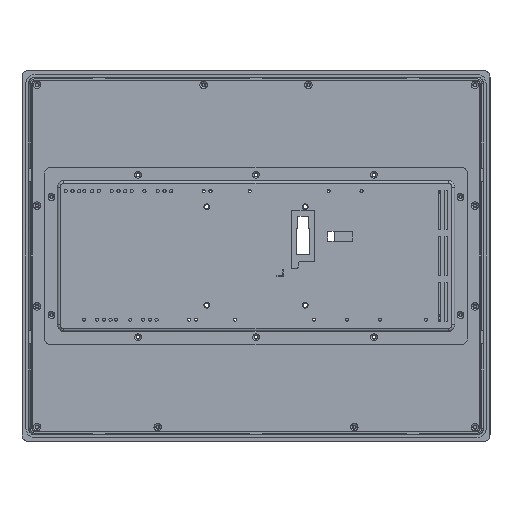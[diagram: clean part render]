
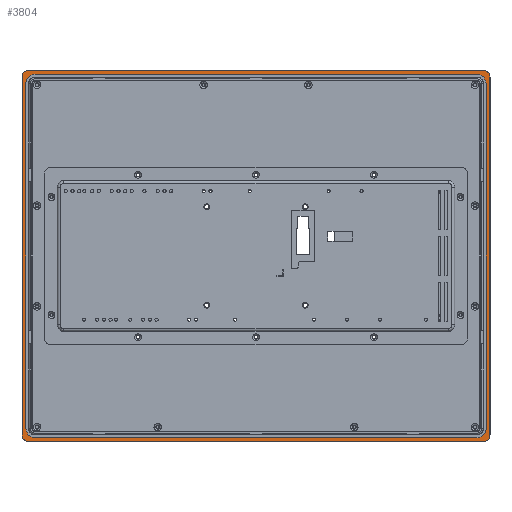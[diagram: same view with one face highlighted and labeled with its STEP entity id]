
A CAD part, front view. The second image highlights one B-rep face of the part: STEP entity #3804.
In plain terms, the highlighted planar face has unit normal (0, -1, 0).
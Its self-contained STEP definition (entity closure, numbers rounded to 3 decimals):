
#3804=ADVANCED_FACE('',(#5311,#4294),#32550,.T.);
#4294=FACE_BOUND('',#6746,.T.);
#5311=FACE_OUTER_BOUND('',#6745,.T.);
#6745=EDGE_LOOP('',(#12255,#12256,#12257,#12258,#12259,#12260,#12261,#12262));
#6746=EDGE_LOOP('',(#12263,#12264,#12265,#12266,#12267,#12268,#12269,#12270));
#12255=ORIENTED_EDGE('',*,*,#18496,.F.);
#12256=ORIENTED_EDGE('',*,*,#18495,.T.);
#12257=ORIENTED_EDGE('',*,*,#18494,.F.);
#12258=ORIENTED_EDGE('',*,*,#18493,.T.);
#12259=ORIENTED_EDGE('',*,*,#18492,.F.);
#12260=ORIENTED_EDGE('',*,*,#18491,.T.);
#12261=ORIENTED_EDGE('',*,*,#18490,.F.);
#12262=ORIENTED_EDGE('',*,*,#18489,.T.);
#12263=ORIENTED_EDGE('',*,*,#18504,.F.);
#12264=ORIENTED_EDGE('',*,*,#18503,.F.);
#12265=ORIENTED_EDGE('',*,*,#18502,.F.);
#12266=ORIENTED_EDGE('',*,*,#18501,.F.);
#12267=ORIENTED_EDGE('',*,*,#18500,.F.);
#12268=ORIENTED_EDGE('',*,*,#18499,.F.);
#12269=ORIENTED_EDGE('',*,*,#18498,.F.);
#12270=ORIENTED_EDGE('',*,*,#18497,.F.);
#18489=EDGE_CURVE('',#30958,#30957,#25169,.T.);
#18490=EDGE_CURVE('',#30958,#30959,#23472,.T.);
#18491=EDGE_CURVE('',#30960,#30959,#25170,.T.);
#18492=EDGE_CURVE('',#30960,#30961,#23473,.T.);
#18493=EDGE_CURVE('',#30962,#30961,#25171,.T.);
#18494=EDGE_CURVE('',#30962,#30963,#23474,.T.);
#18495=EDGE_CURVE('',#30964,#30963,#25172,.T.);
#18496=EDGE_CURVE('',#30964,#30957,#23475,.T.);
#18497=EDGE_CURVE('',#30965,#30966,#23476,.T.);
#18498=EDGE_CURVE('',#30966,#30967,#25173,.T.);
#18499=EDGE_CURVE('',#30967,#30968,#23477,.T.);
#18500=EDGE_CURVE('',#30968,#30969,#25174,.T.);
#18501=EDGE_CURVE('',#30969,#30970,#23478,.T.);
#18502=EDGE_CURVE('',#30970,#30971,#25175,.T.);
#18503=EDGE_CURVE('',#30971,#30972,#23479,.T.);
#18504=EDGE_CURVE('',#30972,#30965,#25176,.T.);
#23472=B_SPLINE_CURVE_WITH_KNOTS('',1,(#55922,#55923),.UNSPECIFIED.,.F.,
 .F.,(2,2),(0.,1.),.UNSPECIFIED.);
#23473=B_SPLINE_CURVE_WITH_KNOTS('',1,(#55929,#55930),.UNSPECIFIED.,.F.,
 .F.,(2,2),(0.,1.),.UNSPECIFIED.);
#23474=B_SPLINE_CURVE_WITH_KNOTS('',1,(#55936,#55937),.UNSPECIFIED.,.F.,
 .F.,(2,2),(0.,1.),.UNSPECIFIED.);
#23475=B_SPLINE_CURVE_WITH_KNOTS('',1,(#55943,#55944),.UNSPECIFIED.,.F.,
 .F.,(2,2),(0.,1.),.UNSPECIFIED.);
#23476=B_SPLINE_CURVE_WITH_KNOTS('',1,(#55945,#55946),.UNSPECIFIED.,.F.,
 .F.,(2,2),(0.,1.),.UNSPECIFIED.);
#23477=B_SPLINE_CURVE_WITH_KNOTS('',1,(#55950,#55951),.UNSPECIFIED.,.F.,
 .F.,(2,2),(0.,1.),.UNSPECIFIED.);
#23478=B_SPLINE_CURVE_WITH_KNOTS('',1,(#55955,#55956),.UNSPECIFIED.,.F.,
 .F.,(2,2),(0.,1.),.UNSPECIFIED.);
#23479=B_SPLINE_CURVE_WITH_KNOTS('',1,(#55960,#55961),.UNSPECIFIED.,.F.,
 .F.,(2,2),(0.,1.),.UNSPECIFIED.);
#25169=(
BOUNDED_CURVE()
B_SPLINE_CURVE(2,(#55917,#55918,#55919,#55920,#55921),.UNSPECIFIED.,.F.,
 .F.)
B_SPLINE_CURVE_WITH_KNOTS((3,2,3),(11.783,15.71,19.637),
 .UNSPECIFIED.)
CURVE()
GEOMETRIC_REPRESENTATION_ITEM()
RATIONAL_B_SPLINE_CURVE((1.,0.924,1.,0.924,1.))
REPRESENTATION_ITEM('')
);
#25170=(
BOUNDED_CURVE()
B_SPLINE_CURVE(2,(#55924,#55925,#55926,#55927,#55928),.UNSPECIFIED.,.F.,
 .F.)
B_SPLINE_CURVE_WITH_KNOTS((3,2,3),(11.783,15.71,19.637),
 .UNSPECIFIED.)
CURVE()
GEOMETRIC_REPRESENTATION_ITEM()
RATIONAL_B_SPLINE_CURVE((1.,0.924,1.,0.924,1.))
REPRESENTATION_ITEM('')
);
#25171=(
BOUNDED_CURVE()
B_SPLINE_CURVE(2,(#55931,#55932,#55933,#55934,#55935),.UNSPECIFIED.,.F.,
 .F.)
B_SPLINE_CURVE_WITH_KNOTS((3,2,3),(11.783,15.71,19.637),
 .UNSPECIFIED.)
CURVE()
GEOMETRIC_REPRESENTATION_ITEM()
RATIONAL_B_SPLINE_CURVE((1.,0.924,1.,0.924,1.))
REPRESENTATION_ITEM('')
);
#25172=(
BOUNDED_CURVE()
B_SPLINE_CURVE(2,(#55938,#55939,#55940,#55941,#55942),.UNSPECIFIED.,.F.,
 .F.)
B_SPLINE_CURVE_WITH_KNOTS((3,2,3),(11.783,15.71,19.637),
 .UNSPECIFIED.)
CURVE()
GEOMETRIC_REPRESENTATION_ITEM()
RATIONAL_B_SPLINE_CURVE((1.,0.924,1.,0.924,1.))
REPRESENTATION_ITEM('')
);
#25173=(
BOUNDED_CURVE()
B_SPLINE_CURVE(2,(#55947,#55948,#55949),.UNSPECIFIED.,.F.,.F.)
B_SPLINE_CURVE_WITH_KNOTS((3,3),(0.,1.571),.UNSPECIFIED.)
CURVE()
GEOMETRIC_REPRESENTATION_ITEM()
RATIONAL_B_SPLINE_CURVE((1.,0.707,1.))
REPRESENTATION_ITEM('')
);
#25174=(
BOUNDED_CURVE()
B_SPLINE_CURVE(2,(#55952,#55953,#55954),.UNSPECIFIED.,.F.,.F.)
B_SPLINE_CURVE_WITH_KNOTS((3,3),(0.,1.571),.UNSPECIFIED.)
CURVE()
GEOMETRIC_REPRESENTATION_ITEM()
RATIONAL_B_SPLINE_CURVE((1.,0.707,1.))
REPRESENTATION_ITEM('')
);
#25175=(
BOUNDED_CURVE()
B_SPLINE_CURVE(2,(#55957,#55958,#55959),.UNSPECIFIED.,.F.,.F.)
B_SPLINE_CURVE_WITH_KNOTS((3,3),(0.,1.571),.UNSPECIFIED.)
CURVE()
GEOMETRIC_REPRESENTATION_ITEM()
RATIONAL_B_SPLINE_CURVE((1.,0.707,1.))
REPRESENTATION_ITEM('')
);
#25176=(
BOUNDED_CURVE()
B_SPLINE_CURVE(2,(#55962,#55963,#55964),.UNSPECIFIED.,.F.,.F.)
B_SPLINE_CURVE_WITH_KNOTS((3,3),(0.,1.571),.UNSPECIFIED.)
CURVE()
GEOMETRIC_REPRESENTATION_ITEM()
RATIONAL_B_SPLINE_CURVE((1.,0.707,1.))
REPRESENTATION_ITEM('')
);
#30957=VERTEX_POINT('',#55901);
#30958=VERTEX_POINT('',#55902);
#30959=VERTEX_POINT('',#55903);
#30960=VERTEX_POINT('',#55904);
#30961=VERTEX_POINT('',#55905);
#30962=VERTEX_POINT('',#55906);
#30963=VERTEX_POINT('',#55907);
#30964=VERTEX_POINT('',#55908);
#30965=VERTEX_POINT('',#55909);
#30966=VERTEX_POINT('',#55910);
#30967=VERTEX_POINT('',#55911);
#30968=VERTEX_POINT('',#55912);
#30969=VERTEX_POINT('',#55913);
#30970=VERTEX_POINT('',#55914);
#30971=VERTEX_POINT('',#55915);
#30972=VERTEX_POINT('',#55916);
#32550=PLANE('',#33540);
#33540=AXIS2_PLACEMENT_3D('',#55900,#34554,$);
#34554=DIRECTION('',(0.,-1.,0.));
#55900=CARTESIAN_POINT('',(-185.64,0.,147.16));
#55901=CARTESIAN_POINT('',(-178.5,0.,136.501));
#55902=CARTESIAN_POINT('',(-173.501,0.,141.5));
#55903=CARTESIAN_POINT('',(173.501,0.,141.5));
#55904=CARTESIAN_POINT('',(178.5,0.,136.501));
#55905=CARTESIAN_POINT('',(178.5,0.,-136.501));
#55906=CARTESIAN_POINT('',(173.501,0.,-141.5));
#55907=CARTESIAN_POINT('',(-173.501,0.,-141.5));
#55908=CARTESIAN_POINT('',(-178.5,0.,-136.501));
#55909=CARTESIAN_POINT('',(-175.5,0.,131.5));
#55910=CARTESIAN_POINT('',(-175.5,0.,-131.5));
#55911=CARTESIAN_POINT('',(-168.5,0.,-138.5));
#55912=CARTESIAN_POINT('',(168.5,0.,-138.5));
#55913=CARTESIAN_POINT('',(175.5,0.,-131.5));
#55914=CARTESIAN_POINT('',(175.5,0.,131.5));
#55915=CARTESIAN_POINT('',(168.5,0.,138.5));
#55916=CARTESIAN_POINT('',(-168.5,0.,138.5));
#55917=CARTESIAN_POINT('',(-173.501,0.,141.5));
#55918=CARTESIAN_POINT('',(-175.572,0.,141.5));
#55919=CARTESIAN_POINT('',(-177.036,0.,140.036));
#55920=CARTESIAN_POINT('',(-178.5,0.,138.572));
#55921=CARTESIAN_POINT('',(-178.5,0.,136.501));
#55922=CARTESIAN_POINT('',(-173.501,0.,141.5));
#55923=CARTESIAN_POINT('',(173.501,0.,141.5));
#55924=CARTESIAN_POINT('',(178.5,0.,136.501));
#55925=CARTESIAN_POINT('',(178.5,0.,138.572));
#55926=CARTESIAN_POINT('',(177.036,0.,140.036));
#55927=CARTESIAN_POINT('',(175.572,0.,141.5));
#55928=CARTESIAN_POINT('',(173.501,0.,141.5));
#55929=CARTESIAN_POINT('',(178.5,0.,136.501));
#55930=CARTESIAN_POINT('',(178.5,0.,-136.501));
#55931=CARTESIAN_POINT('',(173.501,0.,-141.5));
#55932=CARTESIAN_POINT('',(175.572,0.,-141.5));
#55933=CARTESIAN_POINT('',(177.036,0.,-140.036));
#55934=CARTESIAN_POINT('',(178.5,0.,-138.572));
#55935=CARTESIAN_POINT('',(178.5,0.,-136.501));
#55936=CARTESIAN_POINT('',(173.501,0.,-141.5));
#55937=CARTESIAN_POINT('',(-173.501,0.,-141.5));
#55938=CARTESIAN_POINT('',(-178.5,0.,-136.501));
#55939=CARTESIAN_POINT('',(-178.5,0.,-138.572));
#55940=CARTESIAN_POINT('',(-177.036,0.,-140.036));
#55941=CARTESIAN_POINT('',(-175.572,0.,-141.5));
#55942=CARTESIAN_POINT('',(-173.501,0.,-141.5));
#55943=CARTESIAN_POINT('',(-178.5,0.,-136.501));
#55944=CARTESIAN_POINT('',(-178.5,0.,136.501));
#55945=CARTESIAN_POINT('',(-175.5,0.,131.5));
#55946=CARTESIAN_POINT('',(-175.5,0.,-131.5));
#55947=CARTESIAN_POINT('',(-175.5,0.,-131.5));
#55948=CARTESIAN_POINT('',(-175.5,0.,-138.5));
#55949=CARTESIAN_POINT('',(-168.5,0.,-138.5));
#55950=CARTESIAN_POINT('',(-168.5,0.,-138.5));
#55951=CARTESIAN_POINT('',(168.5,0.,-138.5));
#55952=CARTESIAN_POINT('',(168.5,0.,-138.5));
#55953=CARTESIAN_POINT('',(175.5,0.,-138.5));
#55954=CARTESIAN_POINT('',(175.5,0.,-131.5));
#55955=CARTESIAN_POINT('',(175.5,0.,-131.5));
#55956=CARTESIAN_POINT('',(175.5,0.,131.5));
#55957=CARTESIAN_POINT('',(175.5,0.,131.5));
#55958=CARTESIAN_POINT('',(175.5,0.,138.5));
#55959=CARTESIAN_POINT('',(168.5,0.,138.5));
#55960=CARTESIAN_POINT('',(168.5,0.,138.5));
#55961=CARTESIAN_POINT('',(-168.5,0.,138.5));
#55962=CARTESIAN_POINT('',(-168.5,0.,138.5));
#55963=CARTESIAN_POINT('',(-175.5,0.,138.5));
#55964=CARTESIAN_POINT('',(-175.5,0.,131.5));
